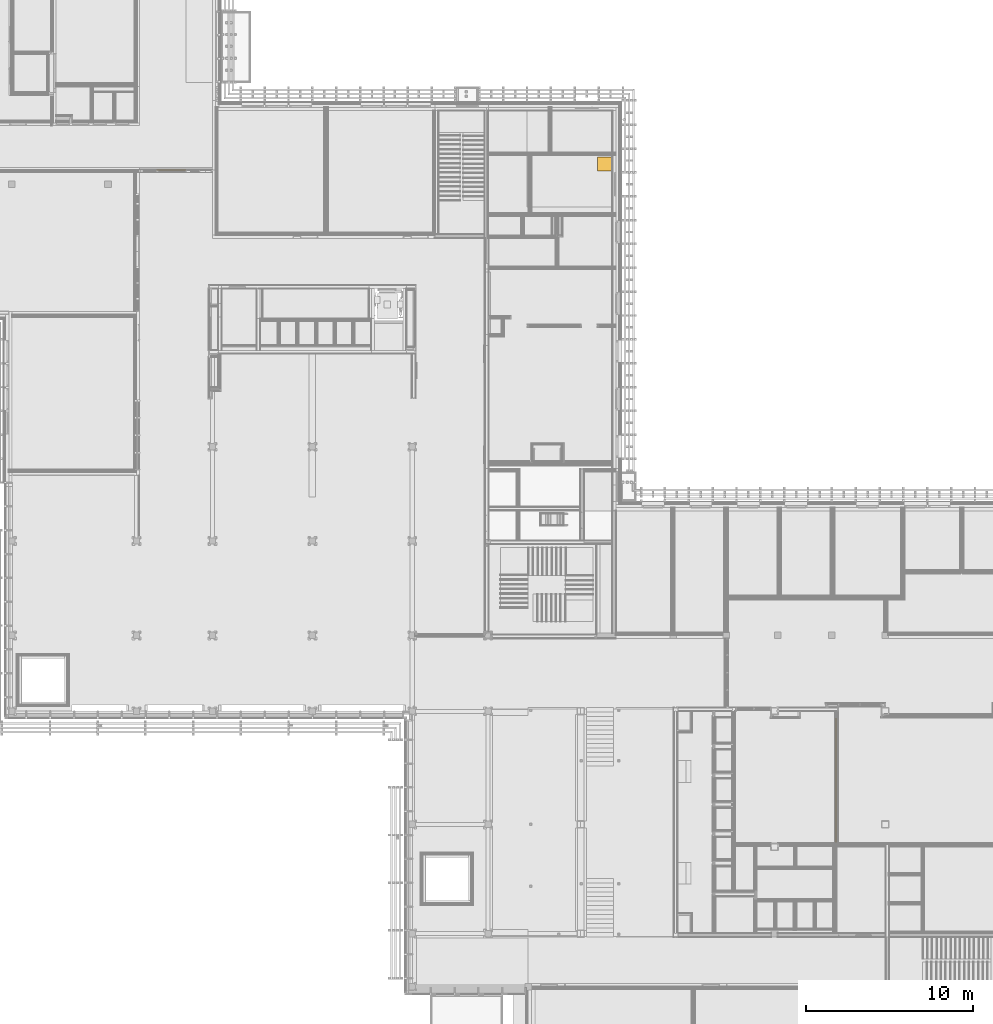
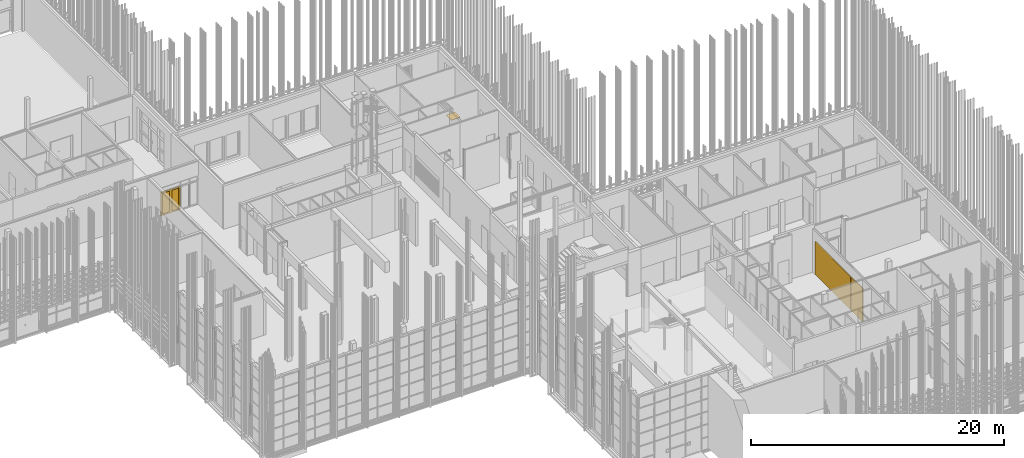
# One storey, part 246 of 260: 2 doors, 1 window, 1 element without a shape of its own.
"""IFC2X3 building model written with IfcOpenShell, lengths in millimetres."""

from ifc_helpers import new_model, entity, si_unit, converted_unit, derived_unit, money_unit, direction, frame, origin_with_axes, place, context, subcontext, project, spatial, open_shell, faceted_brep, surface_model, material, material_list, type_object, element, aggregate, save


model = new_model("IFC2X3")

# Units and contexts
model_context = context("Model", 3, precision=0.01, world=origin_with_axes(), true_north=direction((0.0, 1.0)))
body_context = subcontext(model_context, "Body", "Model", "MODEL_VIEW")
ifc_project = project(units=[si_unit("LENGTHUNIT", "METRE", prefix="MILLI"), si_unit("AREAUNIT", "SQUARE_METRE"), si_unit("VOLUMEUNIT", "CUBIC_METRE"), converted_unit("PLANEANGLEUNIT", "DEGREE", entity("IfcPlaneAngleMeasure", 0.0174532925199), si_unit("PLANEANGLEUNIT", "RADIAN"), dimensions=[0, 0, 0, 0, 0, 0, 0]), money_unit("EUR"), converted_unit("TIMEUNIT", "Year", entity("IfcTimeMeasure", 31556926.0), si_unit("TIMEUNIT", "SECOND"), dimensions=[0, 0, 1, 0, 0, 0, 0]), si_unit("MASSUNIT", "GRAM", prefix="KILO"), si_unit("THERMODYNAMICTEMPERATUREUNIT", "DEGREE_CELSIUS"), si_unit("LUMINOUSINTENSITYUNIT", "LUMEN"), si_unit("ENERGYUNIT", "JOULE", prefix="MEGA"), derived_unit("THERMALCONDUCTANCEUNIT", [(si_unit("POWERUNIT", "WATT"), 1), (si_unit("LENGTHUNIT", "METRE"), -1), (si_unit("THERMODYNAMICTEMPERATUREUNIT", "KELVIN"), -1)]), derived_unit("SPECIFICHEATCAPACITYUNIT", [(si_unit("ENERGYUNIT", "JOULE"), 1), (si_unit("MASSUNIT", "GRAM", prefix="KILO"), -1), (si_unit("THERMODYNAMICTEMPERATUREUNIT", "KELVIN"), -1)]), derived_unit("MASSDENSITYUNIT", [(si_unit("MASSUNIT", "GRAM", prefix="KILO"), 1), (si_unit("VOLUMEUNIT", "CUBIC_METRE"), -1)])], contexts=[model_context])

# Site, building, storey
site_placement = place(None, origin_with_axes())
site = spatial("IfcSite", under=ifc_project, at=site_placement, Name="Kolde pst 67a", CompositionType="ELEMENT")
building_placement = place(site_placement, origin_with_axes())
building = spatial("IfcBuilding", under=site, at=building_placement, Name="Riigigümnaasium", CompositionType="ELEMENT")
storey_placement = place(building_placement, origin_with_axes())
storey = spatial("IfcBuildingStorey", under=building, at=storey_placement, Name="1. korrus", CompositionType="ELEMENT", Elevation=0.0)

# Curtain wall, door
curtain_wall_type = type_object("IfcCurtainWallType", Name="Curtain Wall Type", PredefinedType="NOTDEFINED")
curtain_wall_placement = place(storey_placement, frame((32274.8343542, 56679.9979478, 0.0), z_axis=(0.0, 0.0, 1.0), x_axis=(1.0, 0.0, 0.0)))
curtain_wall = element("IfcCurtainWall", 1, at=curtain_wall_placement, inside=storey, type_object=curtain_wall_type, Name="KLAASSEIN")
ifc_material_1 = material(Name="_METALL - alumiinium")
ifc_material_2 = material(Name="_KLAAS - kirgas")
ifc_material_3 = material(Name="_METALL - roostevaba terasleht, harjatud, 1mm")
ifc_material_list = material_list([ifc_material_1, ifc_material_2, ifc_material_3])
door_style_1 = type_object("IfcDoorStyle", Name="20 x 5 x 20", ConstructionType="NOTDEFINED", OperationType="DOUBLE_DOOR_SINGLE_SWING", ParameterTakesPrecedence=False, Sizeable=False)
door_1_placement = place(curtain_wall_placement, frame((1349.18046536, 0.0, 1150.0), z_axis=(0.0, 0.0, 1.0), x_axis=(1.0, 0.0, 0.0)))
door_1 = element("IfcDoor", 2, at=door_1_placement, type_object=door_style_1, material=ifc_material_list, Name="Klaasseina uks", ObjectType="DOOR", OverallHeight=2270.0, OverallWidth=1757.06, context=body_context, shape_type="SurfaceModel", body=[
    faceted_brep([(1035.04452222, -35.0, -1150.0), (1035.04452222, -30.0, -1150.0), (1035.04452222, -30.0, 1120.00000596), (1035.04452222, -35.0, 1120.00000596), (990.044522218, -35.0, -1150.0), (990.044522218, -30.0, -1150.0), (990.044522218, -30.0, 1075.00000596), (990.044522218, -35.0, 1075.00000596)], [[[0, 1, 2, 3]], [[4, 5, 1, 0]], [[1, 5, 6, 2]], [[3, 2, 6, 7]], [[0, 3, 7, 4]], [[7, 6, 5, 4]]]),
    faceted_brep([(-722.014267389, -35.0, 1120.00000596), (-722.014267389, -30.0, 1120.00000596), (-677.014267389, -30.0, 1075.00000596), (-677.014267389, -35.0, 1075.00000596), (1035.04452222, -35.0, 1120.00000596), (1035.04452222, -30.0, 1120.00000596), (990.044522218, -30.0, 1075.00000596), (990.044522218, -35.0, 1075.00000596)], [[[0, 1, 2, 3]], [[4, 5, 1, 0]], [[1, 5, 6, 2]], [[3, 2, 6, 7]], [[0, 3, 7, 4]], [[7, 6, 5, 4]]]),
    faceted_brep([(-722.014267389, -35.0, -1150.0), (-722.014267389, -30.0, -1150.0), (-677.014267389, -30.0, -1150.0), (-677.014267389, -35.0, -1150.0), (-722.014267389, -35.0, 1120.00000596), (-722.014267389, -30.0, 1120.00000596), (-677.014267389, -30.0, 1075.00000596), (-677.014267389, -35.0, 1075.00000596)], [[[0, 1, 2, 3]], [[4, 5, 1, 0]], [[1, 5, 6, 2]], [[3, 2, 6, 7]], [[0, 3, 7, 4]], [[7, 6, 5, 4]]]),
    faceted_brep([(1035.04452222, -30.0, -1150.0), (1035.04452222, 20.0, -1150.0), (1035.04452222, 20.0, 1120.00000596), (1035.04452222, -30.0, 1120.00000596), (1015.04452222, -30.0, -1150.0), (1015.04452222, 20.0, -1150.0), (1015.04452222, 20.0, 1100.00000596), (1015.04452222, -30.0, 1100.00000596)], [[[0, 1, 2, 3]], [[4, 5, 1, 0]], [[1, 5, 6, 2]], [[3, 2, 6, 7]], [[0, 3, 7, 4]], [[7, 6, 5, 4]]]),
    faceted_brep([(-722.014267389, -30.0, 1120.00000596), (-722.014267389, 20.0, 1120.00000596), (-702.014267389, 20.0, 1100.00000596), (-702.014267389, -30.0, 1100.00000596), (1035.04452222, -30.0, 1120.00000596), (1035.04452222, 20.0, 1120.00000596), (1015.04452222, 20.0, 1100.00000596), (1015.04452222, -30.0, 1100.00000596)], [[[0, 1, 2, 3]], [[4, 5, 1, 0]], [[1, 5, 6, 2]], [[3, 2, 6, 7]], [[0, 3, 7, 4]], [[7, 6, 5, 4]]]),
    faceted_brep([(-722.014267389, -30.0, -1150.0), (-722.014267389, 20.0, -1150.0), (-702.014267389, 20.0, -1150.0), (-702.014267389, -30.0, -1150.0), (-722.014267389, -30.0, 1120.00000596), (-722.014267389, 20.0, 1120.00000596), (-702.014267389, 20.0, 1100.00000596), (-702.014267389, -30.0, 1100.00000596)], [[[0, 1, 2, 3]], [[4, 5, 1, 0]], [[1, 5, 6, 2]], [[3, 2, 6, 7]], [[0, 3, 7, 4]], [[7, 6, 5, 4]]]),
    faceted_brep([(1065.04455798, -10.0, -1150.0), (1065.04455798, 9.99999999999, -1150.0), (1065.04455798, 9.99999999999, 1150.0), (1065.04455798, -10.0, 1150.0), (1035.04452222, -10.0, -1150.0), (1035.04452222, 9.99999999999, -1150.0), (1035.04452222, 9.99999999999, 1120.00000596), (1035.04452222, -10.0, 1120.00000596)], [[[0, 1, 2, 3]], [[4, 5, 1, 0]], [[1, 5, 6, 2]], [[3, 2, 6, 7]], [[0, 3, 7, 4]], [[7, 6, 5, 4]]]),
    faceted_brep([(1065.04455798, -10.0, 1150.0), (1065.04455798, 9.99999999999, 1150.0), (-752.014253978, 9.99999999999, 1150.0), (-752.014253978, -10.0, 1150.0), (1035.04452222, -10.0, 1120.00000596), (1035.04452222, 9.99999999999, 1120.00000596), (-722.014267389, 9.99999999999, 1120.00000596), (-722.014267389, -10.0, 1120.00000596)], [[[0, 1, 2, 3]], [[4, 5, 1, 0]], [[1, 5, 6, 2]], [[3, 2, 6, 7]], [[0, 3, 7, 4]], [[7, 6, 5, 4]]]),
    faceted_brep([(-752.014253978, -10.0, 1150.0), (-752.014253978, 9.99999999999, 1150.0), (-752.014253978, 9.99999999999, -1150.0), (-752.014253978, -10.0, -1150.0), (-722.014267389, -10.0, 1120.00000596), (-722.014267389, 9.99999999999, 1120.00000596), (-722.014267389, 9.99999999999, -1150.0), (-722.014267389, -10.0, -1150.0)], [[[0, 1, 2, 3]], [[4, 5, 1, 0]], [[1, 5, 6, 2]], [[3, 2, 6, 7]], [[0, 3, 7, 4]], [[7, 6, 5, 4]]]),
    faceted_brep([(-582.014267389, -30.0, -1030.0), (-582.014267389, 20.0, -1030.0), (-582.014267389, 20.0, 980.00000596), (-582.014267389, -30.0, 980.00000596), (-702.014267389, -30.0, -1150.0), (-702.014267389, 20.0, -1150.0), (-702.014267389, 20.0, 1100.00000596), (-702.014267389, -30.0, 1100.00000596)], [[[0, 1, 2, 3]], [[4, 5, 1, 0]], [[1, 5, 6, 2]], [[3, 2, 6, 7]], [[0, 3, 7, 4]], [[7, 6, 5, 4]]]),
    faceted_brep([(156.515127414, -30.0, -1150.0), (156.515127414, 20.0, -1150.0), (156.515127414, 20.0, 1100.00000596), (156.515127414, -30.0, 1100.00000596), (36.5151274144, -30.0, -1030.0), (36.5151274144, 20.0, -1030.0), (36.5151274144, 20.0, 980.00000596), (36.5151274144, -30.0, 980.00000596)], [[[0, 1, 2, 3]], [[4, 5, 1, 0]], [[1, 5, 6, 2]], [[3, 2, 6, 7]], [[0, 3, 7, 4]], [[7, 6, 5, 4]]]),
    faceted_brep([(156.515127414, -30.0, -1150.0), (156.515127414, 20.0, -1150.0), (36.5151274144, 20.0, -1030.0), (36.5151274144, -30.0, -1030.0), (-702.014267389, -30.0, -1150.0), (-702.014267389, 20.0, -1150.0), (-582.014267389, 20.0, -1030.0), (-582.014267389, -30.0, -1030.0)], [[[0, 1, 2, 3]], [[4, 5, 1, 0]], [[1, 5, 6, 2]], [[3, 2, 6, 7]], [[0, 3, 7, 4]], [[7, 6, 5, 4]]]),
    faceted_brep([(-702.014267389, -30.0, 1100.00000596), (-702.014267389, 20.0, 1100.00000596), (-582.014267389, 20.0, 980.00000596), (-582.014267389, -30.0, 980.00000596), (156.515127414, -30.0, 1100.00000596), (156.515127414, 20.0, 1100.00000596), (36.5151274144, 20.0, 980.00000596), (36.5151274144, -30.0, 980.00000596)], [[[0, 1, 2, 3]], [[4, 5, 1, 0]], [[1, 5, 6, 2]], [[3, 2, 6, 7]], [[0, 3, 7, 4]], [[7, 6, 5, 4]]]),
    faceted_brep([(-582.014267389, -6.00000000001, -1030.0), (-582.014267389, 9.99999999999, -1030.0), (36.5151274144, 9.99999999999, -1030.0), (36.5151274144, -6.00000000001, -1030.0), (-582.014267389, -6.00000000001, 980.00000596), (-582.014267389, 9.99999999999, 980.00000596), (36.5151274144, 9.99999999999, 980.00000596), (36.5151274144, -6.00000000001, 980.00000596)], [[[0, 1, 2, 3]], [[4, 5, 1, 0]], [[1, 5, 6, 2]], [[3, 2, 6, 7]], [[0, 3, 7, 4]], [[7, 6, 5, 4]]]),
    faceted_brep([(135.015127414, 20.0, -90.0), (135.015127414, 23.0, -90.0), (78.0151274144, 23.0, -90.0), (78.0151274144, 20.0, -90.0), (135.015127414, 20.0, -280.0), (135.015127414, 23.0, -280.0), (78.0151274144, 23.0, -280.0), (78.0151274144, 20.0, -280.0)], [[[0, 1, 2, 3]], [[4, 5, 1, 0]], [[1, 5, 6, 2]], [[3, 2, 6, 7]], [[0, 3, 7, 4]], [[7, 6, 5, 4]]]),
    faceted_brep([(102.806923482, 33.0, -161.412678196), (102.497906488, 23.0, -162.363734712), (93.5151274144, 23.0, -150.0), (94.5151274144, 33.0, -150.0), (116.223331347, 33.0, -157.053423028), (117.032348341, 23.0, -157.64120828), (117.032348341, 23.0, -142.35879172), (102.497906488, 23.0, -137.636265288), (102.806923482, 33.0, -138.587321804), (116.223331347, 33.0, -142.946576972)], [[[0, 1, 2, 3]], [[4, 5, 1, 0]], [[2, 1, 5, 6, 7]], [[3, 2, 7, 8]], [[3, 8, 9, 4, 0]], [[9, 6, 5, 4]], [[8, 7, 6, 9]]]),
    faceted_brep([(100.334787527, 27.0, -264.021130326), (99.7167535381, 23.0, -265.923243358), (84.5151274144, 23.0, -245.0), (86.5151274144, 27.0, -245.0), (122.695467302, 27.0, -256.755705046), (124.313501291, 23.0, -257.93127555), (124.313501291, 23.0, -232.06872445), (99.7167535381, 23.0, -224.076756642), (100.334787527, 27.0, -225.978869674), (122.695467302, 27.0, -233.244294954)], [[[0, 1, 2, 3]], [[4, 5, 1, 0]], [[2, 1, 5, 6, 7]], [[3, 2, 7, 8]], [[3, 8, 9, 4, 0]], [[9, 6, 5, 4]], [[8, 7, 6, 9]]]),
    faceted_brep([(104.352008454, 29.0, -242.657395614), (104.042991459, 27.0, -243.60845213), (98.5151274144, 27.0, -236.0), (99.5151274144, 29.0, -236.0), (112.178246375, 29.0, -240.114496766), (112.987263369, 27.0, -240.702282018), (112.987263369, 27.0, -231.297717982), (104.042991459, 27.0, -228.39154787), (104.352008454, 29.0, -229.342604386), (112.178246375, 29.0, -231.885503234)], [[[0, 1, 2, 3]], [[4, 5, 1, 0]], [[2, 1, 5, 6, 7]], [[3, 2, 7, 8]], [[3, 8, 9, 4, 0]], [[9, 6, 5, 4]], [[8, 7, 6, 9]]]),
    surface_model("IfcShellBasedSurfaceModel", [(96.5151274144, 33.0, -150.0), (96.5151274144, 48.8578643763, -150.0), (103.424957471, 51.7200096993, -159.510565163), (103.424957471, 33.0, -159.510565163), (103.424957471, 33.0, -140.489434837), (103.424957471, 51.7200096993, -140.489434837), (82.3729917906, 63.0, -150.0), (85.2351371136, 69.9098300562, -159.510565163), (114.605297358, 56.3510581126, -155.877852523), (114.605297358, 33.0, -155.877852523), (114.605297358, 33.0, -144.122147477), (114.605297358, 56.3510581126, -144.122147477), (85.2351371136, 69.9098300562, -140.489434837), (20.6572630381, 63.0, -150.0), (17.7951177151, 69.9098300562, -159.510565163), (89.866185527, 81.0901699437, -155.877852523), (89.866185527, 81.0901699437, -144.122147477), (17.7951177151, 69.9098300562, -140.489434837), (6.51512741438, 48.8578643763, -150.0), (-0.39470264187, 51.7200096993, -159.510565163), (13.1640693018, 81.0901699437, -155.877852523), (13.1640693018, 81.0901699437, -144.122147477), (-0.39470264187, 51.7200096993, -140.489434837), (6.51512741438, 33.0, -150.0), (-0.39470264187, 33.0, -159.510565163), (-11.5750425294, 56.3510581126, -155.877852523), (-11.5750425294, 56.3510581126, -144.122147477), (-0.39470264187, 33.0, -140.489434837), (-11.5750425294, 33.0, -144.122147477), (-11.5750425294, 33.0, -155.877852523)], [open_shell([[[0, 1, 2, 3]], [[4, 5, 1, 0]], [[1, 6, 7, 2]], [[3, 2, 8, 9]], [[10, 11, 5, 4]], [[5, 12, 6, 1]], [[6, 13, 14, 7]], [[2, 7, 15, 8]], [[9, 8, 11, 10]], [[11, 16, 12, 5]], [[12, 17, 13, 6]], [[13, 18, 19, 14]], [[7, 14, 20, 15]], [[8, 15, 16, 11]], [[16, 21, 17, 12]], [[17, 22, 18, 13]], [[18, 23, 24, 19]], [[14, 19, 25, 20]], [[15, 20, 21, 16]], [[21, 26, 22, 17]], [[22, 27, 23, 18]], [[23, 27, 28, 29, 24]], [[19, 24, 29, 25]], [[20, 25, 26, 21]], [[26, 28, 27, 22]], [[25, 29, 28, 26]]])]),
    faceted_brep([(135.015127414, -30.0, -90.0), (78.0151274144, -30.0, -90.0), (78.0151274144, -33.0, -90.0), (135.015127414, -33.0, -90.0), (135.015127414, -30.0, -280.0), (78.0151274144, -30.0, -280.0), (78.0151274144, -33.0, -280.0), (135.015127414, -33.0, -280.0)], [[[0, 1, 2, 3]], [[0, 4, 5, 1]], [[1, 5, 6, 2]], [[3, 2, 6, 7]], [[4, 0, 3, 7]], [[5, 4, 7, 6]]]),
    faceted_brep([(102.806923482, -43.0, -161.412678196), (94.5151274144, -43.0, -150.0), (93.5151274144, -33.0, -150.0), (102.497906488, -33.0, -162.363734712), (116.223331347, -43.0, -157.053423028), (116.223331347, -43.0, -142.946576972), (102.806923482, -43.0, -138.587321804), (102.497906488, -33.0, -137.636265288), (117.032348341, -33.0, -142.35879172), (117.032348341, -33.0, -157.64120828)], [[[0, 1, 2, 3]], [[1, 0, 4, 5, 6]], [[1, 6, 7, 2]], [[2, 7, 8, 9, 3]], [[4, 0, 3, 9]], [[5, 4, 9, 8]], [[6, 5, 8, 7]]]),
    faceted_brep([(100.334787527, -37.0, -264.021130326), (86.5151274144, -37.0, -245.0), (84.5151274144, -33.0, -245.0), (99.7167535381, -33.0, -265.923243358), (122.695467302, -37.0, -256.755705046), (122.695467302, -37.0, -233.244294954), (100.334787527, -37.0, -225.978869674), (99.7167535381, -33.0, -224.076756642), (124.313501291, -33.0, -232.06872445), (124.313501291, -33.0, -257.93127555)], [[[0, 1, 2, 3]], [[1, 0, 4, 5, 6]], [[1, 6, 7, 2]], [[2, 7, 8, 9, 3]], [[4, 0, 3, 9]], [[5, 4, 9, 8]], [[6, 5, 8, 7]]]),
    faceted_brep([(104.352008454, -39.0, -242.657395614), (99.5151274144, -39.0, -236.0), (98.5151274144, -37.0, -236.0), (104.042991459, -37.0, -243.60845213), (112.178246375, -39.0, -240.114496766), (112.178246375, -39.0, -231.885503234), (104.352008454, -39.0, -229.342604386), (104.042991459, -37.0, -228.39154787), (112.987263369, -37.0, -231.297717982), (112.987263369, -37.0, -240.702282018)], [[[0, 1, 2, 3]], [[1, 0, 4, 5, 6]], [[1, 6, 7, 2]], [[2, 7, 8, 9, 3]], [[4, 0, 3, 9]], [[5, 4, 9, 8]], [[6, 5, 8, 7]]]),
    surface_model("IfcShellBasedSurfaceModel", [(96.5151274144, -43.0, -150.0), (103.424957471, -43.0, -159.510565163), (103.424957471, -61.7200096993, -159.510565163), (96.5151274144, -58.8578643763, -150.0), (114.605297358, -43.0, -155.877852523), (114.605297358, -66.3510581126, -155.877852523), (85.2351371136, -79.9098300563, -159.510565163), (82.3729917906, -73.0, -150.0), (103.424957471, -43.0, -140.489434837), (103.424957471, -61.7200096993, -140.489434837), (114.605297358, -43.0, -144.122147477), (114.605297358, -66.3510581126, -144.122147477), (89.866185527, -91.0901699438, -155.877852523), (17.7951177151, -79.9098300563, -159.510565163), (20.6572630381, -73.0, -150.0), (85.2351371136, -79.9098300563, -140.489434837), (89.866185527, -91.0901699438, -144.122147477), (13.1640693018, -91.0901699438, -155.877852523), (-0.39470264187, -61.7200096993, -159.510565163), (6.51512741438, -58.8578643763, -150.0), (17.7951177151, -79.9098300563, -140.489434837), (13.1640693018, -91.0901699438, -144.122147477), (-11.5750425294, -66.3510581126, -155.877852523), (-0.39470264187, -43.0, -159.510565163), (6.51512741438, -43.0, -150.0), (-0.39470264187, -61.7200096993, -140.489434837), (-11.5750425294, -66.3510581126, -144.122147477), (-11.5750425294, -43.0, -155.877852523), (-11.5750425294, -43.0, -144.122147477), (-0.39470264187, -43.0, -140.489434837)], [open_shell([[[0, 1, 2, 3]], [[1, 4, 5, 2]], [[3, 2, 6, 7]], [[8, 0, 3, 9]], [[4, 10, 11, 5]], [[2, 5, 12, 6]], [[7, 6, 13, 14]], [[9, 3, 7, 15]], [[10, 8, 9, 11]], [[5, 11, 16, 12]], [[6, 12, 17, 13]], [[14, 13, 18, 19]], [[15, 7, 14, 20]], [[11, 9, 15, 16]], [[12, 16, 21, 17]], [[13, 17, 22, 18]], [[19, 18, 23, 24]], [[20, 14, 19, 25]], [[16, 15, 20, 21]], [[17, 21, 26, 22]], [[18, 22, 27, 23]], [[24, 23, 27, 28, 29]], [[25, 19, 24, 29]], [[21, 20, 25, 26]], [[22, 26, 28, 27]], [[26, 25, 29, 28]]])]),
    faceted_brep([(276.515127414, -30.0, -1030.0), (276.515127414, 20.0, -1030.0), (276.515127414, 20.0, 980.00000596), (276.515127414, -30.0, 980.00000596), (156.515127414, -30.0, -1150.0), (156.515127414, 20.0, -1150.0), (156.515127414, 20.0, 1100.00000596), (156.515127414, -30.0, 1100.00000596)], [[[0, 1, 2, 3]], [[4, 5, 1, 0]], [[1, 5, 6, 2]], [[3, 2, 6, 7]], [[0, 3, 7, 4]], [[7, 6, 5, 4]]]),
    faceted_brep([(1015.04452222, -30.0, -1150.0), (1015.04452222, 20.0, -1150.0), (1015.04452222, 20.0, 1100.00000596), (1015.04452222, -30.0, 1100.00000596), (895.044522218, -30.0, -1030.0), (895.044522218, 20.0, -1030.0), (895.044522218, 20.0, 980.00000596), (895.044522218, -30.0, 980.00000596)], [[[0, 1, 2, 3]], [[4, 5, 1, 0]], [[1, 5, 6, 2]], [[3, 2, 6, 7]], [[0, 3, 7, 4]], [[7, 6, 5, 4]]]),
    faceted_brep([(1015.04452222, -30.0, -1150.0), (1015.04452222, 20.0, -1150.0), (895.044522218, 20.0, -1030.0), (895.044522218, -30.0, -1030.0), (156.515127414, -30.0, -1150.0), (156.515127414, 20.0, -1150.0), (276.515127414, 20.0, -1030.0), (276.515127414, -30.0, -1030.0)], [[[0, 1, 2, 3]], [[4, 5, 1, 0]], [[1, 5, 6, 2]], [[3, 2, 6, 7]], [[0, 3, 7, 4]], [[7, 6, 5, 4]]]),
    faceted_brep([(156.515127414, -30.0, 1100.00000596), (156.515127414, 20.0, 1100.00000596), (276.515127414, 20.0, 980.00000596), (276.515127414, -30.0, 980.00000596), (1015.04452222, -30.0, 1100.00000596), (1015.04452222, 20.0, 1100.00000596), (895.044522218, 20.0, 980.00000596), (895.044522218, -30.0, 980.00000596)], [[[0, 1, 2, 3]], [[4, 5, 1, 0]], [[1, 5, 6, 2]], [[3, 2, 6, 7]], [[0, 3, 7, 4]], [[7, 6, 5, 4]]]),
    faceted_brep([(276.515127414, -6.00000000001, -1030.0), (276.515127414, 9.99999999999, -1030.0), (895.044522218, 9.99999999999, -1030.0), (895.044522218, -6.00000000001, -1030.0), (276.515127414, -6.00000000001, 980.00000596), (276.515127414, 9.99999999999, 980.00000596), (895.044522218, 9.99999999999, 980.00000596), (895.044522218, -6.00000000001, 980.00000596)], [[[0, 1, 2, 3]], [[4, 5, 1, 0]], [[1, 5, 6, 2]], [[3, 2, 6, 7]], [[0, 3, 7, 4]], [[7, 6, 5, 4]]]),
])
aggregate(curtain_wall, [door_1])

# Door
ifc_material_4 = material(Name="_PLASTIK")
door_style_2 = type_object("IfcDoorStyle", Name="Movable Wall 25", ConstructionType="NOTDEFINED", OperationType="NOTDEFINED", ParameterTakesPrecedence=False, Sizeable=False)
door_2_placement = place(storey_placement, frame((73636.307706, 23825.0981121, 0.0), z_axis=(0.0, 0.0, 1.0), x_axis=(0.0, -1.0, 0.0)))
element("IfcDoor", 3, at=door_2_placement, inside=storey, type_object=door_style_2, material=ifc_material_4, Name="Siirdesein", ObjectType="DOOR", context=body_context, shape_type="Brep", body=[
    faceted_brep([(7484.77407023, -30.0, 3200.0), (0.0, -30.0, 3200.0), (0.0, 30.0, 3200.0), (7484.77407023, 30.0, 3200.0), (7484.77407023, -30.0, 3230.0), (0.0, -30.0, 3230.0), (0.0, 30.0, 3230.0), (7484.77407023, 30.0, 3230.0)], [[[0, 1, 2, 3]], [[1, 0, 4, 5]], [[2, 1, 5, 6]], [[3, 2, 6, 7]], [[0, 3, 7, 4]], [[5, 4, 7, 6]]]),
    faceted_brep([(1861.19351756, -40.0, 0.0), (0.0, -40.0, 0.0), (0.0, 40.0, 0.0), (1861.19351756, 40.0, 0.0), (1861.19351756, -40.0, 3200.0), (0.0, -40.0, 3200.0), (0.0, 40.0, 3200.0), (1861.19351756, 40.0, 3200.0)], [[[0, 1, 2, 3]], [[1, 0, 4, 5]], [[2, 1, 5, 6]], [[3, 2, 6, 7]], [[0, 3, 7, 4]], [[5, 4, 7, 6]]]),
    faceted_brep([(3732.38703512, -40.0, 0.0), (1871.19351756, -40.0, 0.0), (1871.19351756, 40.0, 0.0), (3732.38703512, 40.0, 0.0), (3732.38703512, -40.0, 3200.0), (1871.19351756, -40.0, 3200.0), (1871.19351756, 40.0, 3200.0), (3732.38703512, 40.0, 3200.0)], [[[0, 1, 2, 3]], [[1, 0, 4, 5]], [[2, 1, 5, 6]], [[3, 2, 6, 7]], [[0, 3, 7, 4]], [[5, 4, 7, 6]]]),
    faceted_brep([(5603.58055268, -40.0, 0.0), (3742.38703512, -40.0, 0.0), (3742.38703512, 40.0, 0.0), (5603.58055268, 40.0, 0.0), (5603.58055268, -40.0, 3200.0), (3742.38703512, -40.0, 3200.0), (3742.38703512, 40.0, 3200.0), (5603.58055268, 40.0, 3200.0)], [[[0, 1, 2, 3]], [[1, 0, 4, 5]], [[2, 1, 5, 6]], [[3, 2, 6, 7]], [[0, 3, 7, 4]], [[5, 4, 7, 6]]]),
    faceted_brep([(7474.77407023, -40.0, 0.0), (5613.58055268, -40.0, 0.0), (5613.58055268, 40.0, 0.0), (7474.77407023, 40.0, 0.0), (7474.77407023, -40.0, 3200.0), (5613.58055268, -40.0, 3200.0), (5613.58055268, 40.0, 3200.0), (7474.77407023, 40.0, 3200.0)], [[[0, 1, 2, 3]], [[1, 0, 4, 5]], [[2, 1, 5, 6]], [[3, 2, 6, 7]], [[0, 3, 7, 4]], [[5, 4, 7, 6]]]),
])

# Window
window_style = type_object("IfcWindowStyle", Name="Skylight Flat Panel 25", ConstructionType="NOTDEFINED", OperationType="NOTDEFINED", ParameterTakesPrecedence=False, Sizeable=False)
window_placement = place(storey_placement, frame((59359.9940583, 57042.3450819, 0.0), z_axis=(0.0, 0.0, 1.0), x_axis=(0.0, -1.0, 0.0)))
element("IfcWindow", 4, at=window_placement, inside=storey, type_object=window_style, Name="Põrandaluuk", ObjectType="WINDOW", OverallHeight=800.0, OverallWidth=800.0, context=body_context, shape_type="Brep", body=[
    faceted_brep([(-412.5, -12.5, -50.0), (412.5, -12.5, -50.0), (412.5, -12.5, -25.0), (-412.5, -12.5, -25.0), (-412.5, 812.5, -50.0), (412.5, 812.5, -50.0), (-350.0, 50.0, -50.0), (350.0, 50.0, -50.0), (350.0, 750.0, -50.0), (-350.0, 750.0, -50.0), (412.5, 812.5, -25.0), (-412.5, 812.5, -25.0), (-350.0, 50.0, -25.0), (-350.0, 750.0, -25.0), (350.0, 750.0, -25.0), (350.0, 50.0, -25.0)], [[[0, 1, 2, 3]], [[0, 4, 5, 1], [6, 7, 8, 9]], [[1, 5, 10, 2]], [[3, 2, 10, 11], [12, 13, 14, 15]], [[4, 0, 3, 11]], [[5, 4, 11, 10]], [[7, 6, 12, 15]], [[8, 7, 15, 14]], [[9, 8, 14, 13]], [[6, 9, 13, 12]]]),
    faceted_brep([(-412.5, -12.5, -25.0), (412.5, -12.5, -25.0), (412.5, -12.5, 0.0), (-412.5, -12.5, 0.0), (-412.5, 812.5, -25.0), (412.5, 812.5, -25.0), (-400.0, 0.0, -25.0), (400.0, 0.0, -25.0), (400.0, 800.0, -25.0), (-400.0, 800.0, -25.0), (412.5, 812.5, 0.0), (-412.5, 812.5, 0.0), (-400.0, 0.0, 0.0), (-400.0, 800.0, 0.0), (400.0, 800.0, 0.0), (400.0, 0.0, 0.0)], [[[0, 1, 2, 3]], [[0, 4, 5, 1], [6, 7, 8, 9]], [[1, 5, 10, 2]], [[3, 2, 10, 11], [12, 13, 14, 15]], [[4, 0, 3, 11]], [[5, 4, 11, 10]], [[7, 6, 12, 15]], [[8, 7, 15, 14]], [[9, 8, 14, 13]], [[6, 9, 13, 12]]]),
    faceted_brep([(-400.0, 0.0, -25.0), (400.0, 0.0, -25.0), (400.0, 0.0, 0.0), (-400.0, 0.0, 0.0), (-400.0, 800.0, -25.0), (400.0, 800.0, -25.0), (-387.5, 12.5, -25.0), (387.5, 12.5, -25.0), (387.5, 787.5, -25.0), (-387.5, 787.5, -25.0), (400.0, 800.0, 0.0), (-400.0, 800.0, 0.0), (-387.5, 12.5, 0.0), (-387.5, 787.5, 0.0), (387.5, 787.5, 0.0), (387.5, 12.5, 0.0)], [[[0, 1, 2, 3]], [[0, 4, 5, 1], [6, 7, 8, 9]], [[1, 5, 10, 2]], [[3, 2, 10, 11], [12, 13, 14, 15]], [[4, 0, 3, 11]], [[5, 4, 11, 10]], [[7, 6, 12, 15]], [[8, 7, 15, 14]], [[9, 8, 14, 13]], [[6, 9, 13, 12]]]),
    faceted_brep([(-387.5, 12.5, -15.0), (387.5, 12.5, -15.0), (387.5, 12.5, -5.0), (-387.5, 12.5, -5.0), (-387.5, 787.5, -15.0), (387.5, 787.5, -15.0), (387.5, 787.5, -5.0), (-387.5, 787.5, -5.0)], [[[0, 1, 2, 3]], [[0, 4, 5, 1]], [[1, 5, 6, 2]], [[3, 2, 6, 7]], [[4, 0, 3, 7]], [[5, 4, 7, 6]]]),
])

save(model, "model.ifc")
